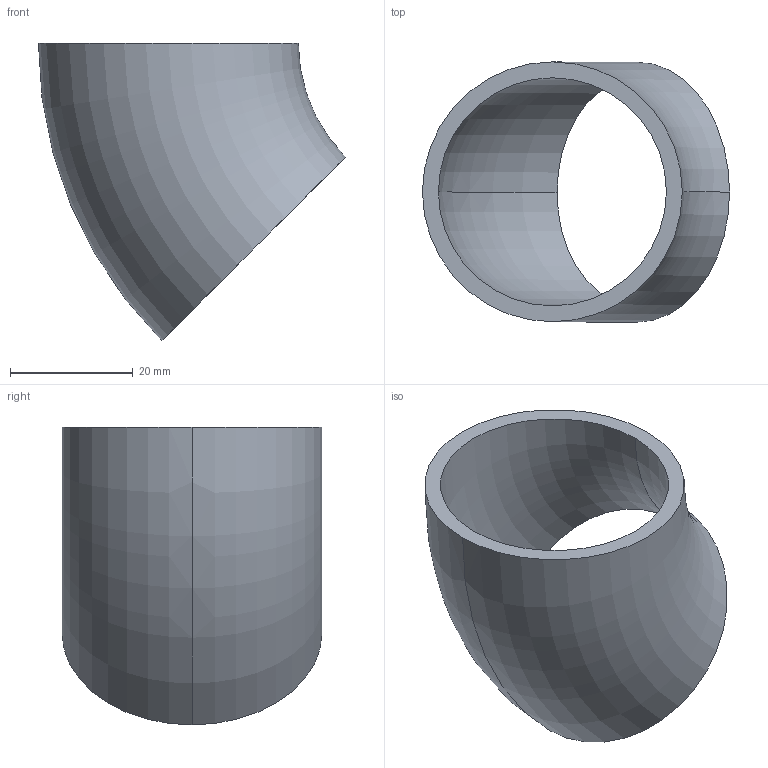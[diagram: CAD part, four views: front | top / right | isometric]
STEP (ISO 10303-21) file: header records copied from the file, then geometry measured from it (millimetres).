
FILE_DESCRIPTION (( 'STEP AP203' ), '1' );
FILE_NAME ('3D_R1650_42.4x2.6_17351260.STEP', '2024-08-03T08:54:30', ( '' ), ( '' ), 'SwSTEP 2.0', 'SolidWorks 2024', '' );
FILE_SCHEMA (( 'CONFIG_CONTROL_DESIGN' ));
Length unit declared in the file: millimetre
Products named in the file (1): 3D_R1650_42.4x2.6_17351260
Bounding box: 50.1 x 42.4 x 48.58 mm (x, y, z)
Volume: 12128 mm3; surface area: 9979.4 mm2
Topology: 1 solids, 1 shells, 6 faces, 12 edges, 8 vertices
Faces by surface type: torus 4, plane 2
Entity records: 249 total; most frequent: DIRECTION 38, CARTESIAN_POINT 27, ORIENTED_EDGE 24, AXIS2_PLACEMENT_3D 19, CIRCLE 12, EDGE_CURVE 12, VERTEX_POINT 8, PERSON_AND_ORGANIZATION 8
